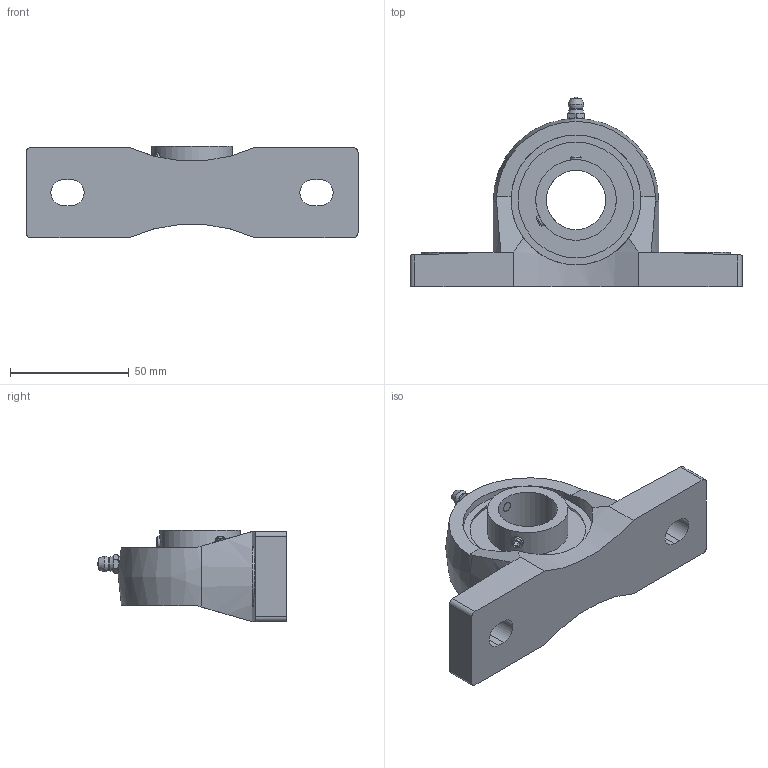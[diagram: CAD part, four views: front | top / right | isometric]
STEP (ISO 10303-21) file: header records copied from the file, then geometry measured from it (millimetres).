
FILE_DESCRIPTION(/* description */ (''),/* implementation_level */ '2;1');
FILE_NAME(/* name */ 'C:\Users\UGijyutu_200702\Desktop\09.プラスチックハウジング\MBPPL200V\MBPPL200V\MBPPL205V.stp',/* time_stamp */ '2023-02-10T13:45:24+09:00',/* author */ ('UGijyutu_200702'),/* organization */ (''),/* preprocessor_version */ 'ST-DEVELOPER v18',/* originating_system */ 'Autodesk Inventor 2020',/* authorisation */ '');
FILE_SCHEMA (('AUTOMOTIVE_DESIGN { 1 0 10303 214 3 1 1 }'));
Length unit declared in the file: millimetre
Products named in the file (4): MBPPL205V; PPL205; MB5 V; 1/4-28UNF-2A
Assembly tree (3 placements, depth 2):
  MBPPL205V
    PPL205
    MB5 V
    1/4-28UNF-2A
Bounding box: 140 x 79.8 x 38.5 mm (x, y, z)
Volume: 128582.8 mm3; surface area: 33933.6 mm2
Topology: 3 solids, 3 shells, 107 faces, 279 edges, 187 vertices
Faces by surface type: plane 58, cylinder 27, cone 15, sphere 4, torus 2, bspline 1
Full cylindrical faces by diameter (mm): 3.2 x1, 5 x2, 5.359 x1, 6.35 x1, 25 x1, 34 x1, 54.8 x2
Entity records: 3786 total; most frequent: CARTESIAN_POINT 907, DIRECTION 568, ORIENTED_EDGE 556, EDGE_CURVE 278, AXIS2_PLACEMENT_3D 223, VERTEX_POINT 187, EDGE_LOOP 127, LINE 122
